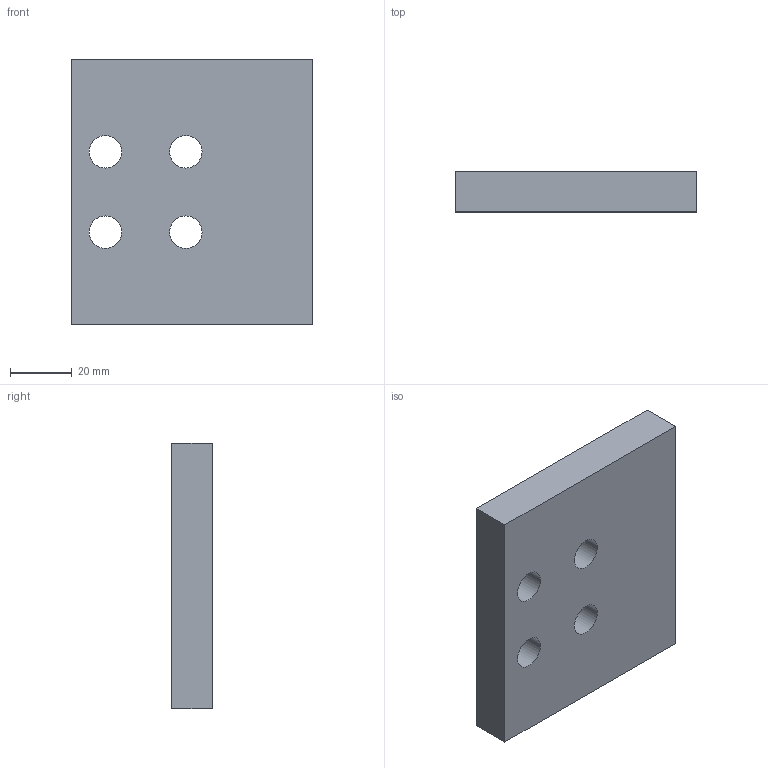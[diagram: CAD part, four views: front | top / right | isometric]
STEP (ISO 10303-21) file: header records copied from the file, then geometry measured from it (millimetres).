
FILE_DESCRIPTION( ( '' ), '1' );
FILE_NAME( 'E:/04 嬴檜蠱滌/0404 ZIMMER/040414 ZIMMER CAD download/Adapt plate/PLK for LKP, LKPS/PLK45-13.stp', '2020-04-16T10:20:00', ( '' ), ( '' ), ' ', ' ', ' ' );
FILE_SCHEMA( ( 'automotive_design' ) );
Length unit declared in the file: millimetre
Products named in the file (1): 1
Bounding box: 78 x 13 x 86 mm (x, y, z)
Volume: 82701.3 mm3; surface area: 18702.6 mm2
Topology: 1 solids, 1 shells, 14 faces, 36 edges, 24 vertices
Faces by surface type: cylinder 8, plane 6
Entity records: 888 total; most frequent: DIRECTION 82, STYLED_ITEM 75, PRESENTATION_STYLE_ASSIGNMENT 75, CARTESIAN_POINT 75, COLOUR_RGB 75, ORIENTED_EDGE 72, EDGE_CURVE 36, CURVE_STYLE 36
